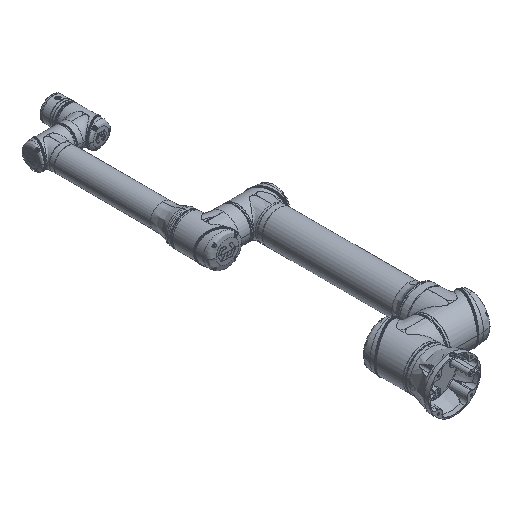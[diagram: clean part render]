
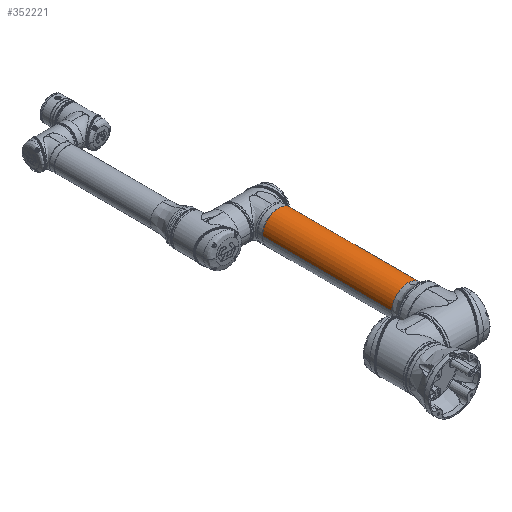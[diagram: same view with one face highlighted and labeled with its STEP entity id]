
A CAD part, isometric view. The second image highlights one B-rep face of the part: STEP entity #352221.
In plain terms, the highlighted cylindrical face has radius 59 mm (diameter 118 mm), a partial arc.
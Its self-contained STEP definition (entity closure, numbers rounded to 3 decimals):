
#7548 = CARTESIAN_POINT ( 'NONE',  ( 632.1, 0., 59. ) ) ;
#15720 = DIRECTION ( 'NONE',  ( 1., 0., 0. ) ) ;
#19556 = AXIS2_PLACEMENT_3D ( 'NONE', #261387, #266840, #436277 ) ;
#26794 = EDGE_CURVE ( 'NONE', #281392, #482763, #270198, .T. ) ;
#32742 = LINE ( 'NONE', #71628, #320760 ) ;
#55912 = DIRECTION ( 'NONE',  ( 0., 0., -1. ) ) ;
#56793 = CARTESIAN_POINT ( 'NONE',  ( 632.1, 0., -59. ) ) ;
#65377 = ORIENTED_EDGE ( 'NONE', *, *, #426341, .T. ) ;
#71628 = CARTESIAN_POINT ( 'NONE',  ( 562.7, 0., -59. ) ) ;
#85625 = DIRECTION ( 'NONE',  ( 0., 0., -1. ) ) ;
#88341 = DIRECTION ( 'NONE',  ( 1., 0., 0. ) ) ;
#99834 = ORIENTED_EDGE ( 'NONE', *, *, #26794, .T. ) ;
#101817 = LINE ( 'NONE', #526761, #329118 ) ;
#105855 = ORIENTED_EDGE ( 'NONE', *, *, #114994, .T. ) ;
#106856 = CARTESIAN_POINT ( 'NONE',  ( 158.463, 0., -59. ) ) ;
#114994 = EDGE_CURVE ( 'NONE', #274526, #281392, #241250, .T. ) ;
#119200 = DIRECTION ( 'NONE',  ( 1., 0., 0. ) ) ;
#184978 = AXIS2_PLACEMENT_3D ( 'NONE', #397534, #264293, #55912 ) ;
#205604 = AXIS2_PLACEMENT_3D ( 'NONE', #294039, #88341, #85625 ) ;
#217228 = VERTEX_POINT ( 'NONE', #7548 ) ;
#218908 = CYLINDRICAL_SURFACE ( 'NONE', #205604, 59. ) ;
#241250 = CIRCLE ( 'NONE', #19556, 59. ) ;
#260114 = VERTEX_POINT ( 'NONE', #56793 ) ;
#261387 = CARTESIAN_POINT ( 'NONE',  ( 158.463, 0., 0. ) ) ;
#263295 = FACE_OUTER_BOUND ( 'NONE', #493094, .T. ) ;
#264293 = DIRECTION ( 'NONE',  ( -1., 0., 0. ) ) ;
#266840 = DIRECTION ( 'NONE',  ( 1., 0., 0. ) ) ;
#270198 = CIRCLE ( 'NONE', #288072, 59. ) ;
#274526 = VERTEX_POINT ( 'NONE', #393623 ) ;
#276968 = CARTESIAN_POINT ( 'NONE',  ( 158.463, -59., 0. ) ) ;
#281392 = VERTEX_POINT ( 'NONE', #276968 ) ;
#288072 = AXIS2_PLACEMENT_3D ( 'NONE', #371987, #119200, #419121 ) ;
#294039 = CARTESIAN_POINT ( 'NONE',  ( 562.7, 0., 0. ) ) ;
#311114 = ORIENTED_EDGE ( 'NONE', *, *, #419845, .F. ) ;
#320760 = VECTOR ( 'NONE', #366125, 1000. ) ;
#329118 = VECTOR ( 'NONE', #15720, 1000. ) ;
#338147 = EDGE_CURVE ( 'NONE', #260114, #217228, #397939, .T. ) ;
#352221 = ADVANCED_FACE ( 'NONE', ( #263295 ), #218908, .T. ) ;
#366125 = DIRECTION ( 'NONE',  ( 1., 0., 0. ) ) ;
#371987 = CARTESIAN_POINT ( 'NONE',  ( 158.463, 0., 0. ) ) ;
#393623 = CARTESIAN_POINT ( 'NONE',  ( 158.463, 0., 59. ) ) ;
#397534 = CARTESIAN_POINT ( 'NONE',  ( 632.1, 0., 0. ) ) ;
#397939 = CIRCLE ( 'NONE', #184978, 59. ) ;
#419121 = DIRECTION ( 'NONE',  ( 0., 0., -1. ) ) ;
#419845 = EDGE_CURVE ( 'NONE', #274526, #217228, #101817, .T. ) ;
#426341 = EDGE_CURVE ( 'NONE', #482763, #260114, #32742, .T. ) ;
#436277 = DIRECTION ( 'NONE',  ( 0., 0., -1. ) ) ;
#482763 = VERTEX_POINT ( 'NONE', #106856 ) ;
#493094 = EDGE_LOOP ( 'NONE', ( #311114, #105855, #99834, #65377, #533866 ) ) ;
#526761 = CARTESIAN_POINT ( 'NONE',  ( 562.7, 0., 59. ) ) ;
#533866 = ORIENTED_EDGE ( 'NONE', *, *, #338147, .T. ) ;
